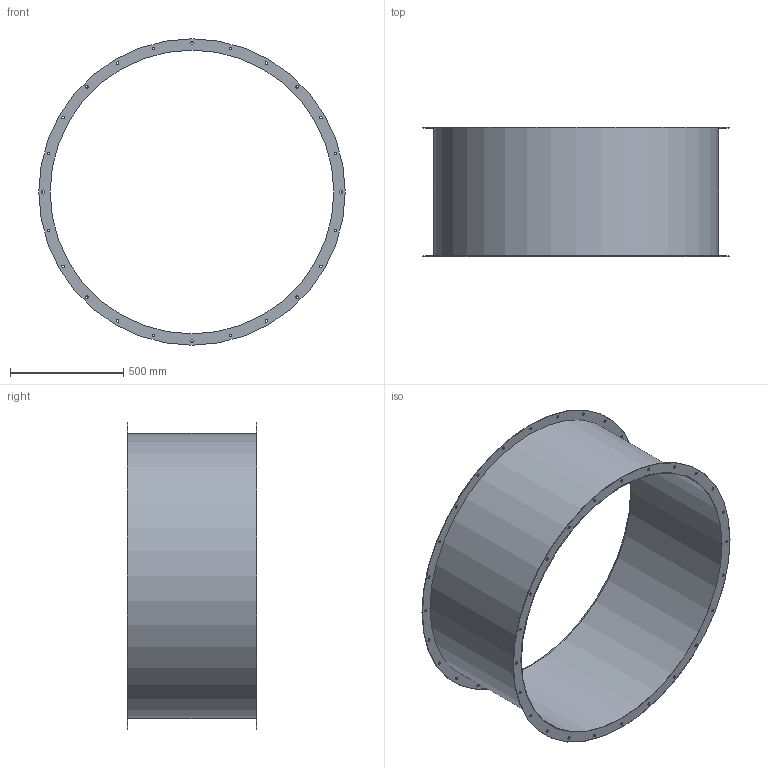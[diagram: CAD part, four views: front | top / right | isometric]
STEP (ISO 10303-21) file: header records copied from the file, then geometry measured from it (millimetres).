
FILE_DESCRIPTION(/* description */ (''),/* implementation_level */ '2;1');
FILE_NAME(/* name */ 'Z:\Output\VR_1250-01933-001.stp',/* time_stamp */ '2020-05-11T11:53:09+02:00',/* author */ ('jayeshpanchal'),/* organization */ (''),/* preprocessor_version */ 'ST-DEVELOPER v17.2',/* originating_system */ 'Autodesk Inventor 2019',/* authorisation */ '');
FILE_SCHEMA (('AUTOMOTIVE_DESIGN { 1 0 10303 214 3 1 1 }'));
Length unit declared in the file: millimetre
Products named in the file (1): VR-1
Bounding box: 1350 x 570 x 1350 mm (x, y, z)
Volume: 7870679.2 mm3; surface area: 5277712.3 mm2
Topology: 1 solids, 1 shells, 56 faces, 164 edges, 112 vertices
Faces by surface type: cylinder 52, plane 4
Full cylindrical faces by diameter (mm): 11.5 x48, 1250 x1, 1256 x1, 1350 x2
Entity records: 2181 total; most frequent: DIRECTION 390, CARTESIAN_POINT 333, ORIENTED_EDGE 328, AXIS2_PLACEMENT_3D 169, EDGE_CURVE 164, EDGE_LOOP 156, CIRCLE 112, VERTEX_POINT 112
